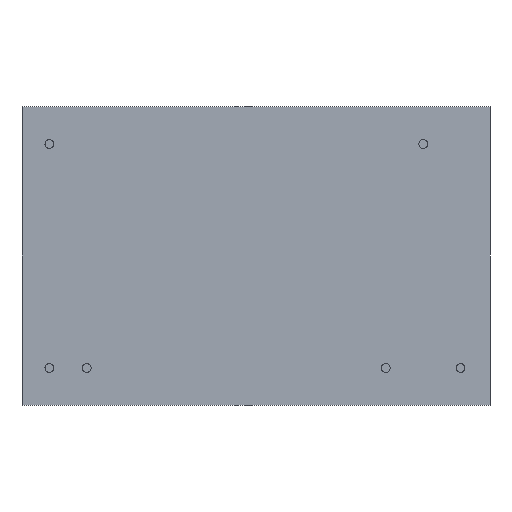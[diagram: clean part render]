
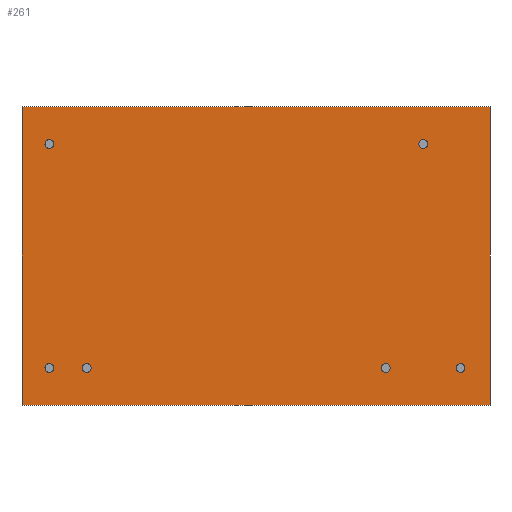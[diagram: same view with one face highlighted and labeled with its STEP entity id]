
A CAD part, front view. The second image highlights one B-rep face of the part: STEP entity #261.
In plain terms, the highlighted planar face has unit normal (0, -1, 0).
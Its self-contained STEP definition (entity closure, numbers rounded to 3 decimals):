
#7 = AXIS2_PLACEMENT_3D ( 'NONE', #508, #88, #183 ) ;
#12 = CIRCLE ( 'NONE', #48, 0.3 ) ;
#15 = ORIENTED_EDGE ( 'NONE', *, *, #53, .F. ) ;
#24 = VERTEX_POINT ( 'NONE', #240 ) ;
#26 = EDGE_CURVE ( 'NONE', #24, #392, #349, .T. ) ;
#33 = DIRECTION ( 'NONE',  ( 0., 0., -1. ) ) ;
#34 = ORIENTED_EDGE ( 'NONE', *, *, #290, .F. ) ;
#39 = CARTESIAN_POINT ( 'NONE',  ( 8.82, 0., -7.61 ) ) ;
#41 = CIRCLE ( 'NONE', #362, 0.3 ) ;
#48 = AXIS2_PLACEMENT_3D ( 'NONE', #327, #441, #559 ) ;
#52 = CIRCLE ( 'NONE', #140, 0.3 ) ;
#53 = EDGE_CURVE ( 'NONE', #462, #110, #673, .T. ) ;
#62 = ORIENTED_EDGE ( 'NONE', *, *, #461, .F. ) ;
#63 = LINE ( 'NONE', #225, #120 ) ;
#68 = CIRCLE ( 'NONE', #471, 0.3 ) ;
#69 = CARTESIAN_POINT ( 'NONE',  ( -14.04, 0., -7.91 ) ) ;
#88 = DIRECTION ( 'NONE',  ( 0., -1., 0. ) ) ;
#90 = CARTESIAN_POINT ( 'NONE',  ( -14.04, 0., -7.61 ) ) ;
#101 = CARTESIAN_POINT ( 'NONE',  ( 0., 0., 0. ) ) ;
#110 = VERTEX_POINT ( 'NONE', #285 ) ;
#116 = EDGE_LOOP ( 'NONE', ( #325, #288 ) ) ;
#117 = EDGE_CURVE ( 'NONE', #392, #24, #693, .T. ) ;
#120 = VECTOR ( 'NONE', #451, 1000. ) ;
#123 = VERTEX_POINT ( 'NONE', #622 ) ;
#130 = DIRECTION ( 'NONE',  ( 0., -1., 0. ) ) ;
#133 = CARTESIAN_POINT ( 'NONE',  ( 13.9, 0., -7.61 ) ) ;
#139 = DIRECTION ( 'NONE',  ( 0., -1., 0. ) ) ;
#140 = AXIS2_PLACEMENT_3D ( 'NONE', #615, #159, #657 ) ;
#146 = ORIENTED_EDGE ( 'NONE', *, *, #571, .F. ) ;
#156 = AXIS2_PLACEMENT_3D ( 'NONE', #452, #436, #162 ) ;
#157 = CIRCLE ( 'NONE', #351, 0.3 ) ;
#159 = DIRECTION ( 'NONE',  ( 0., -1., 0. ) ) ;
#162 = DIRECTION ( 'NONE',  ( 0., 0., 1. ) ) ;
#167 = CIRCLE ( 'NONE', #7, 0.3 ) ;
#169 = CARTESIAN_POINT ( 'NONE',  ( -14.04, 0., -7.61 ) ) ;
#170 = VERTEX_POINT ( 'NONE', #424 ) ;
#173 = EDGE_LOOP ( 'NONE', ( #364, #146 ) ) ;
#174 = CARTESIAN_POINT ( 'NONE',  ( -14.04, 0., 7.31 ) ) ;
#176 = CARTESIAN_POINT ( 'NONE',  ( -15.9, 0., -10.15 ) ) ;
#177 = ORIENTED_EDGE ( 'NONE', *, *, #26, .F. ) ;
#183 = DIRECTION ( 'NONE',  ( 0., 0., 1. ) ) ;
#187 = CARTESIAN_POINT ( 'NONE',  ( -14.04, 0., 7.61 ) ) ;
#191 = FACE_BOUND ( 'NONE', #529, .T. ) ;
#193 = LINE ( 'NONE', #596, #368 ) ;
#209 = EDGE_CURVE ( 'NONE', #581, #679, #193, .T. ) ;
#225 = CARTESIAN_POINT ( 'NONE',  ( -15.9, 0., 10.15 ) ) ;
#229 = VERTEX_POINT ( 'NONE', #419 ) ;
#230 = CIRCLE ( 'NONE', #640, 0.3 ) ;
#240 = CARTESIAN_POINT ( 'NONE',  ( 13.9, 0., -7.91 ) ) ;
#243 = FACE_BOUND ( 'NONE', #676, .T. ) ;
#249 = EDGE_CURVE ( 'NONE', #229, #715, #540, .T. ) ;
#252 = AXIS2_PLACEMENT_3D ( 'NONE', #415, #139, #634 ) ;
#256 = CARTESIAN_POINT ( 'NONE',  ( -11.5, 0., -7.91 ) ) ;
#258 = DIRECTION ( 'NONE',  ( 0., 0., 1. ) ) ;
#261 = ADVANCED_FACE ( 'NONE', ( #243, #469, #689, #191, #411, #638, #352 ), #667, .F. ) ;
#265 = CARTESIAN_POINT ( 'NONE',  ( 15.9, 0., 10.15 ) ) ;
#268 = LINE ( 'NONE', #713, #632 ) ;
#271 = EDGE_CURVE ( 'NONE', #430, #386, #52, .T. ) ;
#278 = ORIENTED_EDGE ( 'NONE', *, *, #666, .F. ) ;
#283 = EDGE_LOOP ( 'NONE', ( #396, #34 ) ) ;
#285 = CARTESIAN_POINT ( 'NONE',  ( -15.9, 0., 10.15 ) ) ;
#288 = ORIENTED_EDGE ( 'NONE', *, *, #586, .F. ) ;
#290 = EDGE_CURVE ( 'NONE', #715, #229, #41, .T. ) ;
#302 = DIRECTION ( 'NONE',  ( 0., -1., 0. ) ) ;
#303 = EDGE_LOOP ( 'NONE', ( #677, #177 ) ) ;
#306 = AXIS2_PLACEMENT_3D ( 'NONE', #90, #302, #648 ) ;
#313 = DIRECTION ( 'NONE',  ( 0., 1., 0. ) ) ;
#316 = DIRECTION ( 'NONE',  ( -1., 0., 0. ) ) ;
#324 = ORIENTED_EDGE ( 'NONE', *, *, #609, .F. ) ;
#325 = ORIENTED_EDGE ( 'NONE', *, *, #398, .F. ) ;
#326 = CARTESIAN_POINT ( 'NONE',  ( -15.9, 0., -10.15 ) ) ;
#327 = CARTESIAN_POINT ( 'NONE',  ( 11.36, 0., 7.61 ) ) ;
#332 = AXIS2_PLACEMENT_3D ( 'NONE', #496, #708, #428 ) ;
#343 = DIRECTION ( 'NONE',  ( 0., 0., 1. ) ) ;
#348 = DIRECTION ( 'NONE',  ( 0., -1., 0. ) ) ;
#349 = CIRCLE ( 'NONE', #156, 0.3 ) ;
#351 = AXIS2_PLACEMENT_3D ( 'NONE', #39, #701, #258 ) ;
#352 = FACE_OUTER_BOUND ( 'NONE', #478, .T. ) ;
#355 = CARTESIAN_POINT ( 'NONE',  ( 15.9, 0., -10.15 ) ) ;
#362 = AXIS2_PLACEMENT_3D ( 'NONE', #169, #552, #382 ) ;
#364 = ORIENTED_EDGE ( 'NONE', *, *, #271, .F. ) ;
#368 = VECTOR ( 'NONE', #33, 1000. ) ;
#382 = DIRECTION ( 'NONE',  ( 0., 0., 1. ) ) ;
#383 = DIRECTION ( 'NONE',  ( 0., -1., 0. ) ) ;
#386 = VERTEX_POINT ( 'NONE', #256 ) ;
#387 = CARTESIAN_POINT ( 'NONE',  ( 8.82, 0., -7.91 ) ) ;
#392 = VERTEX_POINT ( 'NONE', #486 ) ;
#396 = ORIENTED_EDGE ( 'NONE', *, *, #249, .F. ) ;
#398 = EDGE_CURVE ( 'NONE', #170, #554, #628, .T. ) ;
#411 = FACE_BOUND ( 'NONE', #173, .T. ) ;
#415 = CARTESIAN_POINT ( 'NONE',  ( -14.04, 0., 7.61 ) ) ;
#419 = CARTESIAN_POINT ( 'NONE',  ( -14.04, 0., -7.31 ) ) ;
#421 = CARTESIAN_POINT ( 'NONE',  ( 11.36, 0., 7.31 ) ) ;
#424 = CARTESIAN_POINT ( 'NONE',  ( 11.36, 0., 7.91 ) ) ;
#428 = DIRECTION ( 'NONE',  ( 0., 0., 1. ) ) ;
#430 = VERTEX_POINT ( 'NONE', #516 ) ;
#436 = DIRECTION ( 'NONE',  ( 0., -1., 0. ) ) ;
#441 = DIRECTION ( 'NONE',  ( 0., -1., 0. ) ) ;
#442 = VERTEX_POINT ( 'NONE', #387 ) ;
#451 = DIRECTION ( 'NONE',  ( 1., 0., 0. ) ) ;
#452 = CARTESIAN_POINT ( 'NONE',  ( 13.9, 0., -7.61 ) ) ;
#453 = AXIS2_PLACEMENT_3D ( 'NONE', #133, #348, #627 ) ;
#461 = EDGE_CURVE ( 'NONE', #536, #466, #68, .T. ) ;
#462 = VERTEX_POINT ( 'NONE', #326 ) ;
#465 = EDGE_CURVE ( 'NONE', #110, #581, #63, .T. ) ;
#466 = VERTEX_POINT ( 'NONE', #174 ) ;
#469 = FACE_BOUND ( 'NONE', #116, .T. ) ;
#471 = AXIS2_PLACEMENT_3D ( 'NONE', #187, #130, #343 ) ;
#478 = EDGE_LOOP ( 'NONE', ( #15, #324, #651, #620 ) ) ;
#486 = CARTESIAN_POINT ( 'NONE',  ( 13.9, 0., -7.31 ) ) ;
#496 = CARTESIAN_POINT ( 'NONE',  ( 11.36, 0., 7.61 ) ) ;
#508 = CARTESIAN_POINT ( 'NONE',  ( 8.82, 0., -7.61 ) ) ;
#509 = CIRCLE ( 'NONE', #252, 0.3 ) ;
#516 = CARTESIAN_POINT ( 'NONE',  ( -11.5, 0., -7.31 ) ) ;
#529 = EDGE_LOOP ( 'NONE', ( #561, #566 ) ) ;
#536 = VERTEX_POINT ( 'NONE', #649 ) ;
#540 = CIRCLE ( 'NONE', #306, 0.3 ) ;
#545 = DIRECTION ( 'NONE',  ( 0., 0., 1. ) ) ;
#546 = CARTESIAN_POINT ( 'NONE',  ( -11.5, 0., -7.61 ) ) ;
#548 = EDGE_CURVE ( 'NONE', #123, #442, #157, .T. ) ;
#552 = DIRECTION ( 'NONE',  ( 0., -1., 0. ) ) ;
#554 = VERTEX_POINT ( 'NONE', #421 ) ;
#559 = DIRECTION ( 'NONE',  ( 0., 0., 1. ) ) ;
#561 = ORIENTED_EDGE ( 'NONE', *, *, #548, .F. ) ;
#566 = ORIENTED_EDGE ( 'NONE', *, *, #706, .F. ) ;
#570 = VECTOR ( 'NONE', #688, 1000. ) ;
#571 = EDGE_CURVE ( 'NONE', #386, #430, #230, .T. ) ;
#581 = VERTEX_POINT ( 'NONE', #265 ) ;
#586 = EDGE_CURVE ( 'NONE', #554, #170, #12, .T. ) ;
#596 = CARTESIAN_POINT ( 'NONE',  ( 15.9, 0., -10.15 ) ) ;
#609 = EDGE_CURVE ( 'NONE', #679, #462, #268, .T. ) ;
#615 = CARTESIAN_POINT ( 'NONE',  ( -11.5, 0., -7.61 ) ) ;
#616 = DIRECTION ( 'NONE',  ( 0., 0., 1. ) ) ;
#620 = ORIENTED_EDGE ( 'NONE', *, *, #465, .F. ) ;
#622 = CARTESIAN_POINT ( 'NONE',  ( 8.82, 0., -7.31 ) ) ;
#626 = AXIS2_PLACEMENT_3D ( 'NONE', #101, #313, #545 ) ;
#627 = DIRECTION ( 'NONE',  ( 0., 0., 1. ) ) ;
#628 = CIRCLE ( 'NONE', #332, 0.3 ) ;
#632 = VECTOR ( 'NONE', #316, 1000. ) ;
#634 = DIRECTION ( 'NONE',  ( 0., 0., 1. ) ) ;
#638 = FACE_BOUND ( 'NONE', #283, .T. ) ;
#640 = AXIS2_PLACEMENT_3D ( 'NONE', #546, #383, #616 ) ;
#648 = DIRECTION ( 'NONE',  ( 0., 0., 1. ) ) ;
#649 = CARTESIAN_POINT ( 'NONE',  ( -14.04, 0., 7.91 ) ) ;
#651 = ORIENTED_EDGE ( 'NONE', *, *, #209, .F. ) ;
#657 = DIRECTION ( 'NONE',  ( 0., 0., 1. ) ) ;
#666 = EDGE_CURVE ( 'NONE', #466, #536, #509, .T. ) ;
#667 = PLANE ( 'NONE',  #626 ) ;
#673 = LINE ( 'NONE', #176, #570 ) ;
#676 = EDGE_LOOP ( 'NONE', ( #62, #278 ) ) ;
#677 = ORIENTED_EDGE ( 'NONE', *, *, #117, .F. ) ;
#679 = VERTEX_POINT ( 'NONE', #355 ) ;
#688 = DIRECTION ( 'NONE',  ( 0., 0., 1. ) ) ;
#689 = FACE_BOUND ( 'NONE', #303, .T. ) ;
#693 = CIRCLE ( 'NONE', #453, 0.3 ) ;
#701 = DIRECTION ( 'NONE',  ( 0., -1., 0. ) ) ;
#706 = EDGE_CURVE ( 'NONE', #442, #123, #167, .T. ) ;
#708 = DIRECTION ( 'NONE',  ( 0., -1., 0. ) ) ;
#713 = CARTESIAN_POINT ( 'NONE',  ( -15.9, 0., -10.15 ) ) ;
#715 = VERTEX_POINT ( 'NONE', #69 ) ;
